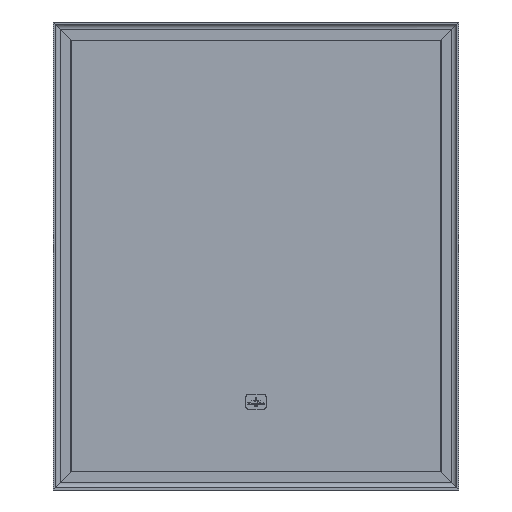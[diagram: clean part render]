
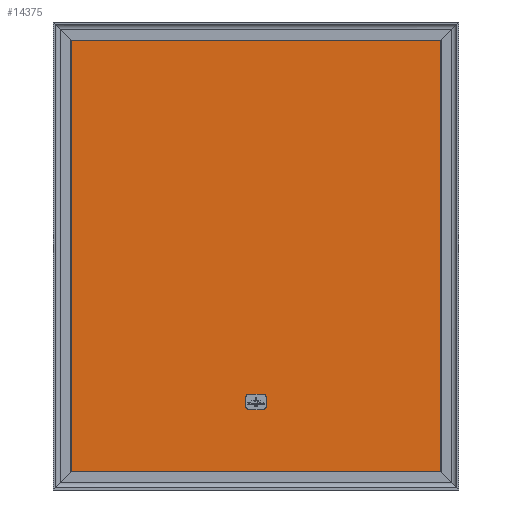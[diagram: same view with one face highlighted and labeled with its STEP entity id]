
A CAD part, front view. The second image highlights one B-rep face of the part: STEP entity #14375.
In plain terms, the highlighted planar face has unit normal (0, -1, 0).
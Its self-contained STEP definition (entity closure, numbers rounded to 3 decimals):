
#155=FACE_BOUND('',#2365,.T.);
#755=CIRCLE('',#15519,4.714);
#757=CIRCLE('',#15523,4.714);
#759=CIRCLE('',#15527,4.714);
#761=CIRCLE('',#15531,4.714);
#1503=FACE_OUTER_BOUND('',#2364,.T.);
#2364=EDGE_LOOP('',(#12128,#12129,#12130,#12131));
#2365=EDGE_LOOP('',(#12132,#12133,#12134,#12135,#12136,#12137,#12138,#12139));
#3900=LINE('',#23238,#5475);
#3904=LINE('',#23250,#5479);
#3908=LINE('',#23262,#5483);
#3912=LINE('',#23273,#5487);
#3914=LINE('',#23279,#5489);
#3915=LINE('',#23281,#5490);
#3916=LINE('',#23283,#5491);
#3917=LINE('',#23284,#5492);
#5475=VECTOR('',#18937,15.086);
#5479=VECTOR('',#18949,23.571);
#5483=VECTOR('',#18961,15.086);
#5487=VECTOR('',#18973,23.571);
#5489=VECTOR('',#18979,592.);
#5490=VECTOR('',#18980,691.);
#5491=VECTOR('',#18981,592.);
#5492=VECTOR('',#18982,691.);
#6855=VERTEX_POINT('',#23228);
#6856=VERTEX_POINT('',#23229);
#6859=VERTEX_POINT('',#23237);
#6861=VERTEX_POINT('',#23243);
#6863=VERTEX_POINT('',#23249);
#6865=VERTEX_POINT('',#23255);
#6867=VERTEX_POINT('',#23261);
#6869=VERTEX_POINT('',#23267);
#6871=VERTEX_POINT('',#23277);
#6872=VERTEX_POINT('',#23278);
#6873=VERTEX_POINT('',#23280);
#6874=VERTEX_POINT('',#23282);
#8736=EDGE_CURVE('',#6855,#6856,#755,.T.);
#8740=EDGE_CURVE('',#6859,#6855,#3900,.T.);
#8743=EDGE_CURVE('',#6861,#6859,#757,.T.);
#8746=EDGE_CURVE('',#6863,#6861,#3904,.T.);
#8749=EDGE_CURVE('',#6865,#6863,#759,.T.);
#8752=EDGE_CURVE('',#6867,#6865,#3908,.T.);
#8755=EDGE_CURVE('',#6869,#6867,#761,.T.);
#8758=EDGE_CURVE('',#6856,#6869,#3912,.T.);
#8760=EDGE_CURVE('',#6871,#6872,#3914,.T.);
#8761=EDGE_CURVE('',#6873,#6871,#3915,.T.);
#8762=EDGE_CURVE('',#6874,#6873,#3916,.T.);
#8763=EDGE_CURVE('',#6872,#6874,#3917,.T.);
#12128=ORIENTED_EDGE('',*,*,#8760,.F.);
#12129=ORIENTED_EDGE('',*,*,#8761,.F.);
#12130=ORIENTED_EDGE('',*,*,#8762,.F.);
#12131=ORIENTED_EDGE('',*,*,#8763,.F.);
#12132=ORIENTED_EDGE('',*,*,#8736,.T.);
#12133=ORIENTED_EDGE('',*,*,#8758,.T.);
#12134=ORIENTED_EDGE('',*,*,#8755,.T.);
#12135=ORIENTED_EDGE('',*,*,#8752,.T.);
#12136=ORIENTED_EDGE('',*,*,#8749,.T.);
#12137=ORIENTED_EDGE('',*,*,#8746,.T.);
#12138=ORIENTED_EDGE('',*,*,#8743,.T.);
#12139=ORIENTED_EDGE('',*,*,#8740,.T.);
#13618=PLANE('',#15535);
#14375=ADVANCED_FACE('',(#1503,#155),#13618,.T.);
#15519=AXIS2_PLACEMENT_3D('',#23230,#18929,#18930);
#15523=AXIS2_PLACEMENT_3D('',#23244,#18942,#18943);
#15527=AXIS2_PLACEMENT_3D('',#23256,#18954,#18955);
#15531=AXIS2_PLACEMENT_3D('',#23268,#18966,#18967);
#15535=AXIS2_PLACEMENT_3D('',#23276,#18977,#18978);
#18929=DIRECTION('center_axis',(0.,1.,0.));
#18930=DIRECTION('ref_axis',(0.,0.,1.));
#18937=DIRECTION('',(0.,0.,1.));
#18942=DIRECTION('center_axis',(0.,1.,0.));
#18943=DIRECTION('ref_axis',(-1.,0.,0.));
#18949=DIRECTION('',(-1.,0.,0.));
#18954=DIRECTION('center_axis',(0.,1.,0.));
#18955=DIRECTION('ref_axis',(0.,0.,-1.));
#18961=DIRECTION('',(0.,0.,-1.));
#18966=DIRECTION('center_axis',(0.,1.,0.));
#18967=DIRECTION('ref_axis',(1.,0.,0.));
#18973=DIRECTION('',(1.,0.,0.));
#18977=DIRECTION('center_axis',(0.,-1.,0.));
#18978=DIRECTION('ref_axis',(1.,0.,0.));
#18979=DIRECTION('',(-1.,0.,0.));
#18980=DIRECTION('',(0.,0.,-1.));
#18981=DIRECTION('',(1.,0.,0.));
#18982=DIRECTION('',(0.,0.,1.));
#23228=CARTESIAN_POINT('',(-16.5,5.75,148.8));
#23229=CARTESIAN_POINT('',(-11.786,5.75,153.514));
#23230=CARTESIAN_POINT('Origin',(-11.786,5.75,148.8));
#23237=CARTESIAN_POINT('',(-16.5,5.75,133.714));
#23238=CARTESIAN_POINT('',(-16.5,5.75,137.406));
#23243=CARTESIAN_POINT('',(-11.786,5.75,129.));
#23244=CARTESIAN_POINT('Origin',(-11.786,5.75,133.714));
#23249=CARTESIAN_POINT('',(11.786,5.75,129.));
#23250=CARTESIAN_POINT('',(-31.65,5.75,129.));
#23255=CARTESIAN_POINT('',(16.5,5.75,133.714));
#23256=CARTESIAN_POINT('Origin',(11.786,5.75,133.714));
#23261=CARTESIAN_POINT('',(16.5,5.75,148.8));
#23262=CARTESIAN_POINT('',(16.5,5.75,144.949));
#23267=CARTESIAN_POINT('',(11.786,5.75,153.514));
#23268=CARTESIAN_POINT('Origin',(11.786,5.75,148.8));
#23273=CARTESIAN_POINT('',(-43.436,5.75,153.514));
#23276=CARTESIAN_POINT('Origin',(-75.086,5.75,141.098));
#23277=CARTESIAN_POINT('',(296.,5.75,29.5));
#23278=CARTESIAN_POINT('',(-296.,5.75,29.5));
#23279=CARTESIAN_POINT('',(110.75,5.75,29.5));
#23280=CARTESIAN_POINT('',(296.,5.75,720.5));
#23281=CARTESIAN_POINT('',(296.,5.75,548.));
#23282=CARTESIAN_POINT('',(-296.,5.75,720.5));
#23283=CARTESIAN_POINT('',(-260.75,5.75,720.5));
#23284=CARTESIAN_POINT('',(-296.,5.75,202.));
